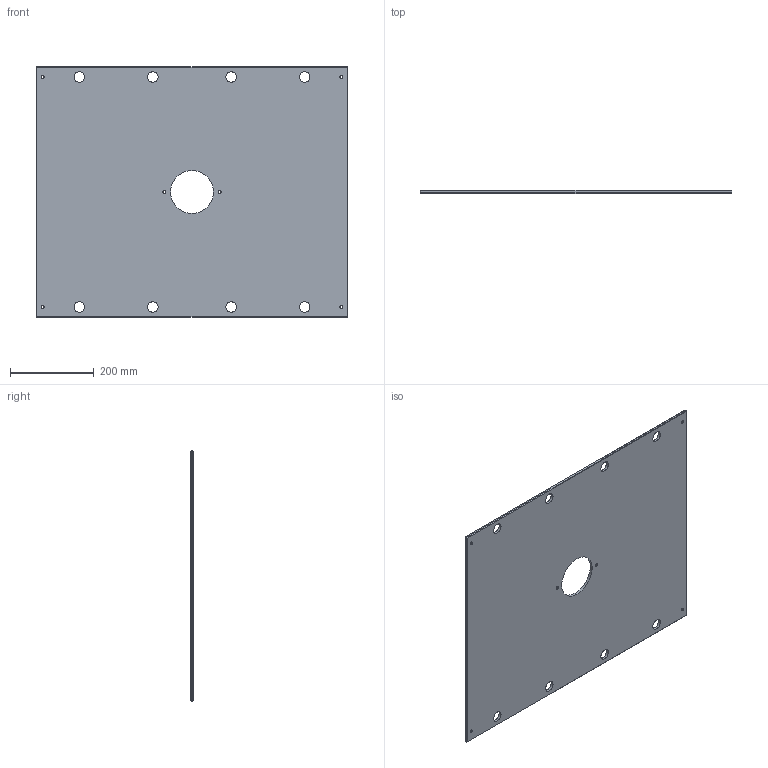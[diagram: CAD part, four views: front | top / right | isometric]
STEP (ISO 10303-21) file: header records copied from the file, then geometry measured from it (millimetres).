
FILE_DESCRIPTION (( 'STEP AP214' ), '1' );
FILE_NAME ('ME-0619-CH-2429.STEP', '2020-02-12T06:40:18', ( '' ), ( '' ), 'SwSTEP 2.0', 'SolidWorks 2018', '' );
FILE_SCHEMA (( 'AUTOMOTIVE_DESIGN' ));
Length unit declared in the file: inch
Products named in the file (1): ME-0619-CH-2429
Bounding box: 746.12 x 6.35 x 600.08 mm (x, y, z)
Volume: 2757176.1 mm3; surface area: 890046.1 mm2
Topology: 1 solids, 1 shells, 68 faces, 162 edges, 96 vertices
Faces by surface type: cylinder 30, plane 26, cone 12
Entity records: 2050 total; most frequent: DIRECTION 372, CARTESIAN_POINT 327, ORIENTED_EDGE 324, EDGE_CURVE 162, AXIS2_PLACEMENT_3D 141, EDGE_LOOP 98, VERTEX_POINT 96, VECTOR 90
